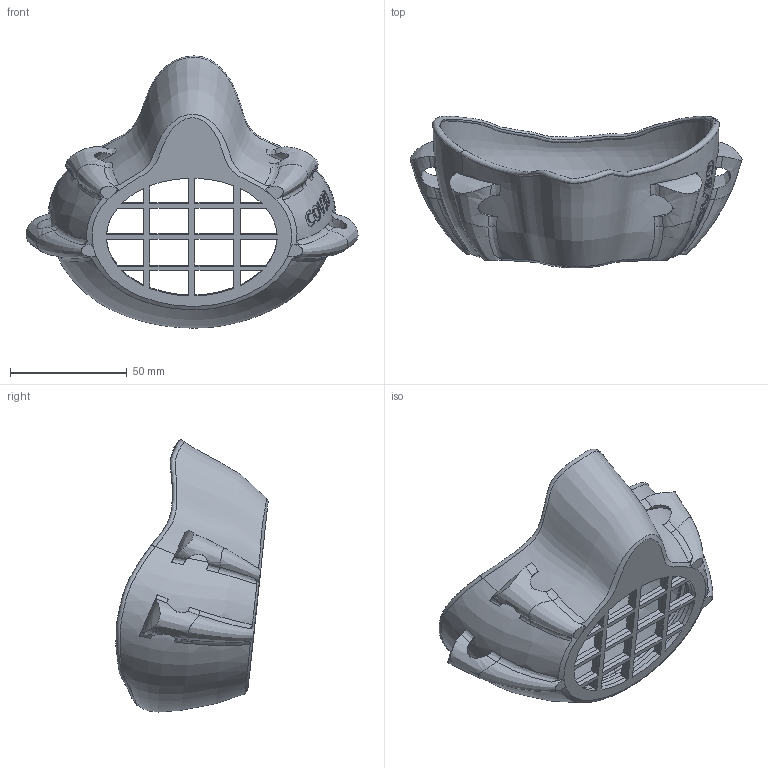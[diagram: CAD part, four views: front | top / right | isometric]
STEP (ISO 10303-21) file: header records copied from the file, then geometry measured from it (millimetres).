
FILE_DESCRIPTION(/* description */ (''),/* implementation_level */ '2;1');
FILE_NAME(/* name */ 'S-WIDE~2',/* time_stamp */ '2020-04-10T21:30:19+03:00',/* author */ (''),/* organization */ (''),/* preprocessor_version */ 'ST-DEVELOPER v16.5',/* originating_system */ '',/* authorisation */ '');
FILE_SCHEMA (('AUTOMOTIVE_DESIGN'));
Length unit declared in the file: millimetre
Products named in the file (1): Document
Bounding box: 142.02 x 65.09 x 116.4 mm (x, y, z)
Volume: 57995 mm3; surface area: 48839.4 mm2
Topology: 1 solids, 1 shells, 312 faces, 797 edges, 489 vertices
Faces by surface type: bspline 209, plane 103
Entity records: 184217 total; most frequent: CARTESIAN_POINT 179229, ORIENTED_EDGE 1594, EDGE_CURVE 797, B_SPLINE_CURVE_WITH_KNOTS 625, VERTEX_POINT 489, EDGE_LOOP 354, ADVANCED_FACE 312, FACE_OUTER_BOUND 312
